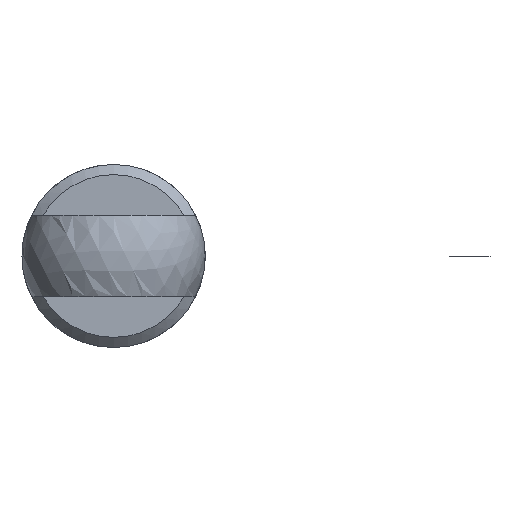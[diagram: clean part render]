
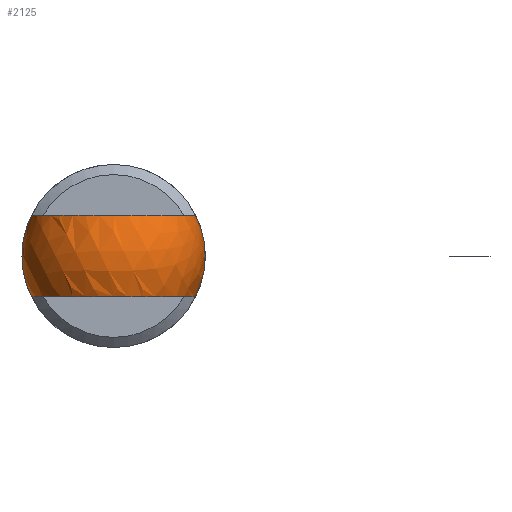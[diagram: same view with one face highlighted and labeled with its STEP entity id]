
A CAD part, left-side view. The second image highlights one B-rep face of the part: STEP entity #2125.
In plain terms, the highlighted spherical face has radius 4.5 mm.
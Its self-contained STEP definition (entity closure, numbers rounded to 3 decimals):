
#831=CARTESIAN_POINT('',(-196.607,65.018,-135.189));
#832=DIRECTION('',(-1.,0.,0.));
#833=DIRECTION('',(0.,-0.896,-0.444));
#834=AXIS2_PLACEMENT_3D('',#831,#832,#833);
#836=CARTESIAN_POINT('',(-196.607,65.018,-137.189));
#837=DIRECTION('',(0.,0.,1.));
#838=DIRECTION('',(-1.,0.,0.));
#839=AXIS2_PLACEMENT_3D('',#836,#837,#838);
#841=CARTESIAN_POINT('',(-196.607,65.018,-137.189));
#842=DIRECTION('',(0.,0.,1.));
#843=DIRECTION('',(0.,1.,0.));
#844=AXIS2_PLACEMENT_3D('',#841,#842,#843);
#846=CARTESIAN_POINT('',(-196.607,65.018,-135.189));
#847=DIRECTION('',(-1.,0.,0.));
#848=DIRECTION('',(0.,0.896,0.444));
#849=AXIS2_PLACEMENT_3D('',#846,#847,#848);
#851=CARTESIAN_POINT('',(-196.607,65.018,-133.189));
#852=DIRECTION('',(0.,0.,-1.));
#853=DIRECTION('',(0.,-1.,0.));
#854=AXIS2_PLACEMENT_3D('',#851,#852,#853);
#1084=CARTESIAN_POINT('',(-196.607,60.987,
-133.189));
#1085=CARTESIAN_POINT('',(-196.607,69.049,
-133.189));
#1086=VERTEX_POINT('',#1084);
#1087=VERTEX_POINT('',#1085);
#1088=CARTESIAN_POINT('',(-200.638,65.018,
-137.189));
#1089=CARTESIAN_POINT('',(-196.607,60.987,
-137.189));
#1090=VERTEX_POINT('',#1088);
#1091=VERTEX_POINT('',#1089);
#1092=CARTESIAN_POINT('',(-196.607,69.049,
-137.189));
#1093=VERTEX_POINT('',#1092);
#2112=CARTESIAN_POINT('',(-196.607,65.018,
-135.189));
#2113=DIRECTION('',(0.,-0.896,0.444));
#2114=DIRECTION('',(1.,0.,0.));
#2115=AXIS2_PLACEMENT_3D('',#2112,#2113,#2114);
#2116=SPHERICAL_SURFACE('',#2115,4.5);
#2117=ORIENTED_EDGE('',*,*,#2031,.F.);
#2118=ORIENTED_EDGE('',*,*,#2086,.F.);
#2119=ORIENTED_EDGE('',*,*,#2094,.F.);
#2120=ORIENTED_EDGE('',*,*,#2002,.F.);
#2122=ORIENTED_EDGE('',*,*,#2121,.F.);
#2123=EDGE_LOOP('',(#2117,#2118,#2119,#2120,#2122));
#2124=FACE_OUTER_BOUND('',#2123,.F.);
#2125=ADVANCED_FACE('',(#2124),#2116,.T.);
#835=CIRCLE('',#834,4.5);
#840=CIRCLE('',#839,4.031);
#845=CIRCLE('',#844,4.031);
#850=CIRCLE('',#849,4.5);
#855=CIRCLE('',#854,4.031);
#2002=EDGE_CURVE('',#1087,#1093,#850,.T.);
#2031=EDGE_CURVE('',#1091,#1086,#835,.T.);
#2086=EDGE_CURVE('',#1090,#1091,#840,.T.);
#2094=EDGE_CURVE('',#1093,#1090,#845,.T.);
#2121=EDGE_CURVE('',#1086,#1087,#855,.T.);
